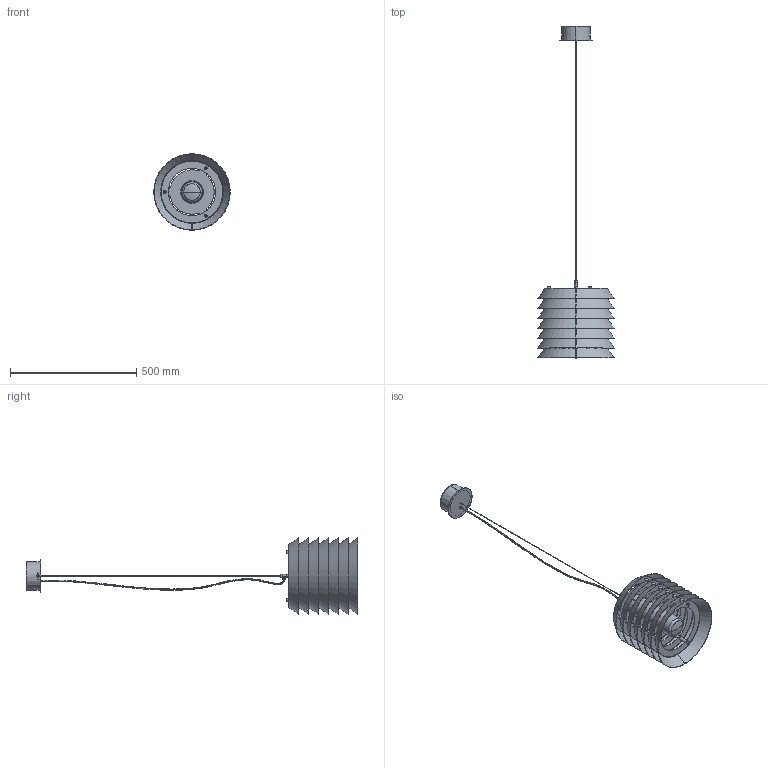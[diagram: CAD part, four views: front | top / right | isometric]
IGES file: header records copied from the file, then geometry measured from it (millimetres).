
Start section: SolidWorks IGES file using analytic representation for surfaces
Global section: file name: C:\Users\Andrea.Obradors\Desktop\Maija 30 Hanging lamp_3D.IGS; native system: SolidWorks 2015; preprocessor: SolidWorks 2015; author: Andrea.Obradors; date: 160218.184534; units: millimetre
Bounding box: 302.5 x 1315.8 x 302.5 mm (x, y, z)
Surface area: 1050518.1 mm2 (no closed solid volume)
Topology: 0 solids, 0 shells, 261 faces, 6181 edges, 6180 vertices
Faces by surface type: revolution 162, bspline 99
